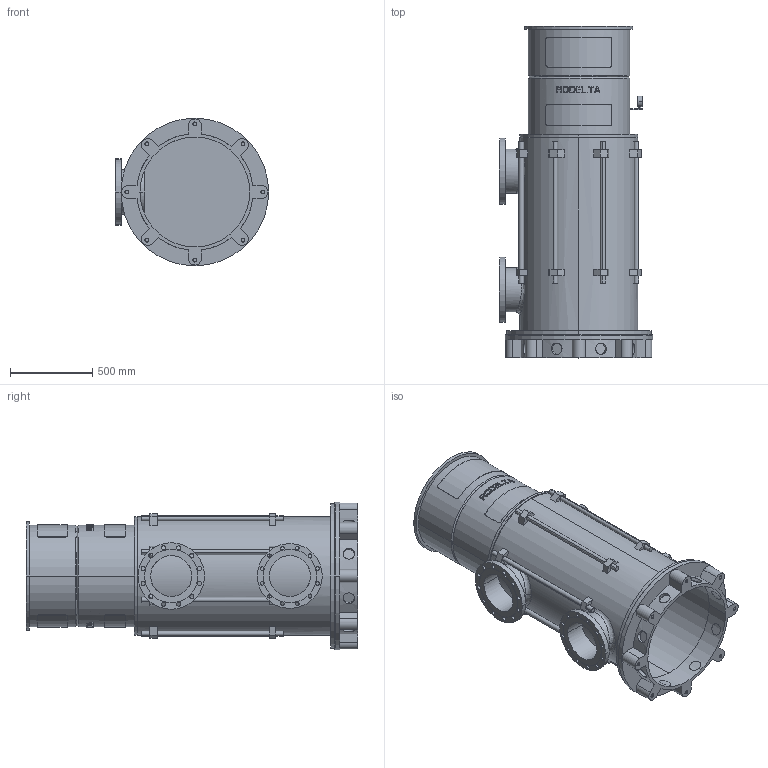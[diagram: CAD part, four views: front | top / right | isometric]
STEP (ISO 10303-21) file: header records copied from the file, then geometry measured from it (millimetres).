
FILE_DESCRIPTION((''),'2;1');
FILE_NAME('LS10_2TR_0GR_P_PN16','2025-10-20T11:59:15',('Lyritlocal'),(''),'CREO PARAMETRIC BY PTC INC, 2022014','CREO PARAMETRIC BY PTC INC, 2022014','');
FILE_SCHEMA(('CONFIG_CONTROL_DESIGN'));
Length unit declared in the file: millimetre
Products named in the file (1): LS10_2TR_0GR_P_PN16
Bounding box: 935 x 2023 x 900 mm (x, y, z)
Volume: 90074085.1 mm3; surface area: 12354675.6 mm2
Topology: 3 solids, 11 shells, 752 faces, 1934 edges, 1288 vertices
Faces by surface type: plane 462, cylinder 274, cone 12, bspline 4
Entity records: 24328 total; most frequent: CARTESIAN_POINT 5982, ORIENTED_EDGE 3836, DIRECTION 3662, EDGE_CURVE 1934, AXIS2_PLACEMENT_3D 1381, VERTEX_POINT 1288, EDGE_LOOP 924, VECTOR 900
